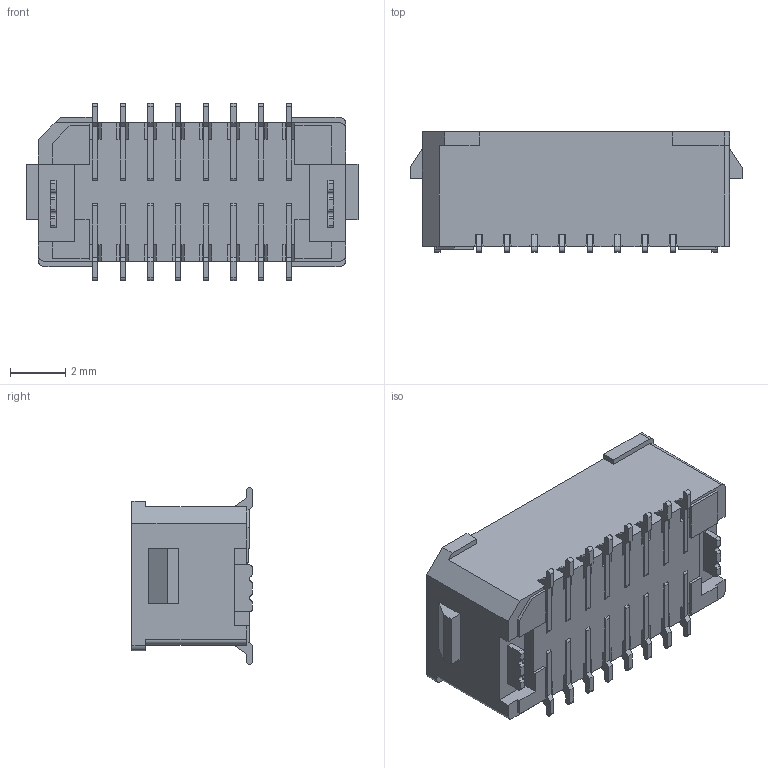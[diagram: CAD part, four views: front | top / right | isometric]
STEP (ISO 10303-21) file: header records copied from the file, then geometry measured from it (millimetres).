
FILE_DESCRIPTION((''),'2;1');
FILE_NAME('51439-016','2022-07-06T',('k99883'),(''),'PRO/ENGINEER BY PARAMETRIC TECHNOLOGY CORPORATION, 2012010','PRO/ENGINEER BY PARAMETRIC TECHNOLOGY CORPORATION, 2012010','');
FILE_SCHEMA(('CONFIG_CONTROL_DESIGN'));
Length unit declared in the file: millimetre
Products named in the file (1): 51439-016
Bounding box: 12 x 4.35 x 6.4 mm (x, y, z)
Volume: 122.4 mm3; surface area: 419.6 mm2
Topology: 1 solids, 1 shells, 920 faces, 2638 edges, 1732 vertices
Faces by surface type: plane 830, cylinder 90
Entity records: 29457 total; most frequent: CARTESIAN_POINT 5242, ORIENTED_EDGE 5132, DIRECTION 4686, EDGE_CURVE 2566, VECTOR 2418, LINE 2418, VERTEX_POINT 1660, AXIS2_PLACEMENT_3D 1134
